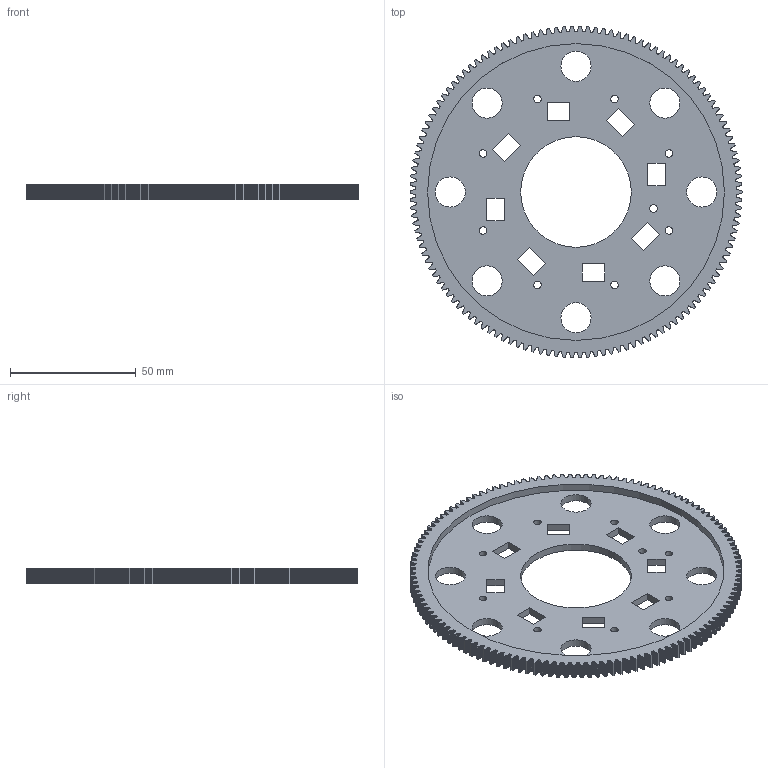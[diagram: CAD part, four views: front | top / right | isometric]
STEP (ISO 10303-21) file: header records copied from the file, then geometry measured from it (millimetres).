
FILE_DESCRIPTION(('FreeCAD Model'),'2;1');
FILE_NAME('Open CASCADE Shape Model','2026-10-30T15:51:51',('FreeCAD'),( 'FreeCAD'),'Open CASCADE STEP processor 7.8','FreeCAD','Unknown');
FILE_SCHEMA(('AUTOMOTIVE_DESIGN { 1 0 10303 214 1 1 1 1 }'));
Length unit declared in the file: millimetre
Products named in the file (1): Open CASCADE STEP translator 7.8 3
Bounding box: 132 x 131.98 x 6 mm (x, y, z)
Volume: 37423.5 mm3; surface area: 28791.7 mm2
Topology: 1 solids, 1 shells, 3304 faces, 9903 edges, 6602 vertices
Faces by surface type: plane 3285, cylinder 19
Full cylindrical faces by diameter (mm): 3 x8, 3.1 x1, 12 x8, 44 x1, 118 x1
Entity records: 109119 total; most frequent: CARTESIAN_POINT 19810, ORIENTED_EDGE 19806, DIRECTION 16551, EDGE_CURVE 9903, LINE 9865, VECTOR 9865, VERTEX_POINT 6602, FACE_BOUND 3357
